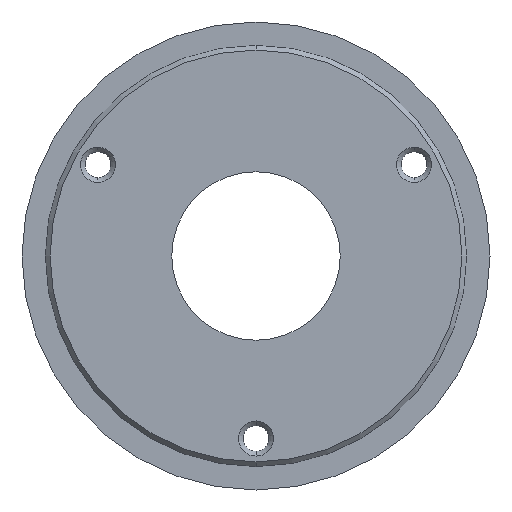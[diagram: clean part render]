
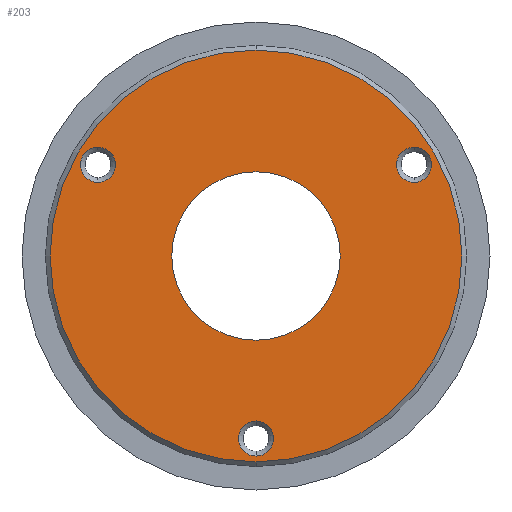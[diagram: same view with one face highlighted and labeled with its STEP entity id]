
A CAD part, front view. The second image highlights one B-rep face of the part: STEP entity #203.
In plain terms, the highlighted planar face has unit normal (0, -1, 0).
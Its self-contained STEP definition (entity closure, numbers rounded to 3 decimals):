
#29 = EDGE_CURVE ( 'NONE', #308, #62, #407, .T. ) ;
#31 = AXIS2_PLACEMENT_3D ( 'NONE', #247, #323, #972 ) ;
#37 = EDGE_CURVE ( 'NONE', #62, #308, #931, .T. ) ;
#40 = CARTESIAN_POINT ( 'NONE',  ( 0., 0., -18. ) ) ;
#46 = EDGE_LOOP ( 'NONE', ( #856, #256 ) ) ;
#59 = DIRECTION ( 'NONE',  ( 0., 1., 0. ) ) ;
#62 = VERTEX_POINT ( 'NONE', #516 ) ;
#83 = EDGE_CURVE ( 'NONE', #918, #1166, #728, .T. ) ;
#84 = DIRECTION ( 'NONE',  ( 0., 1., 0. ) ) ;
#93 = AXIS2_PLACEMENT_3D ( 'NONE', #1048, #481, #985 ) ;
#101 = VERTEX_POINT ( 'NONE', #541 ) ;
#104 = CARTESIAN_POINT ( 'NONE',  ( 33.775, 0., 15.75 ) ) ;
#110 = CARTESIAN_POINT ( 'NONE',  ( 0., 0., -35.25 ) ) ;
#112 = EDGE_CURVE ( 'NONE', #1110, #1134, #757, .T. ) ;
#127 = CIRCLE ( 'NONE', #819, 18. ) ;
#149 = DIRECTION ( 'NONE',  ( 0., 0., 1. ) ) ;
#158 = AXIS2_PLACEMENT_3D ( 'NONE', #421, #343, #1156 ) ;
#173 = DIRECTION ( 'NONE',  ( 0., -1., 0. ) ) ;
#203 = ADVANCED_FACE ( 'NONE', ( #852, #877, #233, #408, #1206 ), #238, .F. ) ;
#209 = EDGE_CURVE ( 'NONE', #101, #386, #795, .T. ) ;
#215 = AXIS2_PLACEMENT_3D ( 'NONE', #533, #791, #1039 ) ;
#233 = FACE_BOUND ( 'NONE', #46, .T. ) ;
#238 = PLANE ( 'NONE',  #809 ) ;
#242 = CARTESIAN_POINT ( 'NONE',  ( -33.775, 0., 23.25 ) ) ;
#247 = CARTESIAN_POINT ( 'NONE',  ( 0., 0., 0. ) ) ;
#256 = ORIENTED_EDGE ( 'NONE', *, *, #272, .T. ) ;
#262 = DIRECTION ( 'NONE',  ( 0., 0., 1. ) ) ;
#271 = CARTESIAN_POINT ( 'NONE',  ( 0., 0., -44. ) ) ;
#272 = EDGE_CURVE ( 'NONE', #871, #529, #681, .T. ) ;
#285 = AXIS2_PLACEMENT_3D ( 'NONE', #1087, #347, #542 ) ;
#308 = VERTEX_POINT ( 'NONE', #271 ) ;
#317 = CARTESIAN_POINT ( 'NONE',  ( 33.775, 0., 23.25 ) ) ;
#323 = DIRECTION ( 'NONE',  ( 0., -1., 0. ) ) ;
#326 = EDGE_LOOP ( 'NONE', ( #1027, #342 ) ) ;
#342 = ORIENTED_EDGE ( 'NONE', *, *, #939, .T. ) ;
#343 = DIRECTION ( 'NONE',  ( 0., -1., 0. ) ) ;
#347 = DIRECTION ( 'NONE',  ( 0., -1., 0. ) ) ;
#360 = ORIENTED_EDGE ( 'NONE', *, *, #83, .F. ) ;
#386 = VERTEX_POINT ( 'NONE', #242 ) ;
#391 = CIRCLE ( 'NONE', #93, 3.75 ) ;
#402 = CIRCLE ( 'NONE', #1023, 3.75 ) ;
#404 = CARTESIAN_POINT ( 'NONE',  ( 33.775, 0., 19.5 ) ) ;
#407 = CIRCLE ( 'NONE', #285, 44. ) ;
#408 = FACE_OUTER_BOUND ( 'NONE', #787, .T. ) ;
#413 = EDGE_LOOP ( 'NONE', ( #944, #997 ) ) ;
#418 = CARTESIAN_POINT ( 'NONE',  ( 33.775, 0., 19.5 ) ) ;
#421 = CARTESIAN_POINT ( 'NONE',  ( 0., 0., 0. ) ) ;
#426 = AXIS2_PLACEMENT_3D ( 'NONE', #968, #566, #683 ) ;
#427 = CARTESIAN_POINT ( 'NONE',  ( 0., 0., -42.75 ) ) ;
#478 = ORIENTED_EDGE ( 'NONE', *, *, #37, .T. ) ;
#481 = DIRECTION ( 'NONE',  ( 0., 1., 0. ) ) ;
#500 = CARTESIAN_POINT ( 'NONE',  ( 0., 0., 0. ) ) ;
#515 = DIRECTION ( 'NONE',  ( 0., 0., 1. ) ) ;
#516 = CARTESIAN_POINT ( 'NONE',  ( 0., 0., 44. ) ) ;
#529 = VERTEX_POINT ( 'NONE', #427 ) ;
#533 = CARTESIAN_POINT ( 'NONE',  ( -33.775, 0., 19.5 ) ) ;
#541 = CARTESIAN_POINT ( 'NONE',  ( -33.775, 0., 15.75 ) ) ;
#542 = DIRECTION ( 'NONE',  ( 0., 0., 1. ) ) ;
#560 = ORIENTED_EDGE ( 'NONE', *, *, #1181, .F. ) ;
#566 = DIRECTION ( 'NONE',  ( 0., 1., 0. ) ) ;
#595 = DIRECTION ( 'NONE',  ( 0., 1., 0. ) ) ;
#606 = AXIS2_PLACEMENT_3D ( 'NONE', #1082, #595, #776 ) ;
#628 = AXIS2_PLACEMENT_3D ( 'NONE', #404, #1063, #515 ) ;
#640 = EDGE_LOOP ( 'NONE', ( #560, #360 ) ) ;
#661 = DIRECTION ( 'NONE',  ( 0., 0., -1. ) ) ;
#681 = CIRCLE ( 'NONE', #426, 3.75 ) ;
#683 = DIRECTION ( 'NONE',  ( 0., 0., 1. ) ) ;
#726 = CARTESIAN_POINT ( 'NONE',  ( -18., 0., 0. ) ) ;
#728 = CIRCLE ( 'NONE', #31, 18. ) ;
#757 = CIRCLE ( 'NONE', #628, 3.75 ) ;
#759 = ORIENTED_EDGE ( 'NONE', *, *, #29, .T. ) ;
#776 = DIRECTION ( 'NONE',  ( 0., 0., 1. ) ) ;
#786 = CARTESIAN_POINT ( 'NONE',  ( 0., 0., 18. ) ) ;
#787 = EDGE_LOOP ( 'NONE', ( #478, #759 ) ) ;
#791 = DIRECTION ( 'NONE',  ( 0., 1., 0. ) ) ;
#792 = EDGE_CURVE ( 'NONE', #1134, #1110, #402, .T. ) ;
#795 = CIRCLE ( 'NONE', #215, 3.75 ) ;
#809 = AXIS2_PLACEMENT_3D ( 'NONE', #726, #59, #149 ) ;
#819 = AXIS2_PLACEMENT_3D ( 'NONE', #500, #173, #661 ) ;
#852 = FACE_BOUND ( 'NONE', #326, .T. ) ;
#856 = ORIENTED_EDGE ( 'NONE', *, *, #1161, .T. ) ;
#871 = VERTEX_POINT ( 'NONE', #110 ) ;
#877 = FACE_BOUND ( 'NONE', #413, .T. ) ;
#918 = VERTEX_POINT ( 'NONE', #786 ) ;
#931 = CIRCLE ( 'NONE', #158, 44. ) ;
#939 = EDGE_CURVE ( 'NONE', #386, #101, #1081, .T. ) ;
#944 = ORIENTED_EDGE ( 'NONE', *, *, #792, .T. ) ;
#968 = CARTESIAN_POINT ( 'NONE',  ( 0., 0., -39. ) ) ;
#972 = DIRECTION ( 'NONE',  ( 0., 0., -1. ) ) ;
#985 = DIRECTION ( 'NONE',  ( 0., 0., 1. ) ) ;
#997 = ORIENTED_EDGE ( 'NONE', *, *, #112, .T. ) ;
#1023 = AXIS2_PLACEMENT_3D ( 'NONE', #418, #84, #262 ) ;
#1027 = ORIENTED_EDGE ( 'NONE', *, *, #209, .T. ) ;
#1039 = DIRECTION ( 'NONE',  ( 0., 0., 1. ) ) ;
#1048 = CARTESIAN_POINT ( 'NONE',  ( 0., 0., -39. ) ) ;
#1063 = DIRECTION ( 'NONE',  ( 0., 1., 0. ) ) ;
#1081 = CIRCLE ( 'NONE', #606, 3.75 ) ;
#1082 = CARTESIAN_POINT ( 'NONE',  ( -33.775, 0., 19.5 ) ) ;
#1087 = CARTESIAN_POINT ( 'NONE',  ( 0., 0., 0. ) ) ;
#1110 = VERTEX_POINT ( 'NONE', #317 ) ;
#1134 = VERTEX_POINT ( 'NONE', #104 ) ;
#1156 = DIRECTION ( 'NONE',  ( 0., 0., 1. ) ) ;
#1161 = EDGE_CURVE ( 'NONE', #529, #871, #391, .T. ) ;
#1166 = VERTEX_POINT ( 'NONE', #40 ) ;
#1181 = EDGE_CURVE ( 'NONE', #1166, #918, #127, .T. ) ;
#1206 = FACE_BOUND ( 'NONE', #640, .T. ) ;
